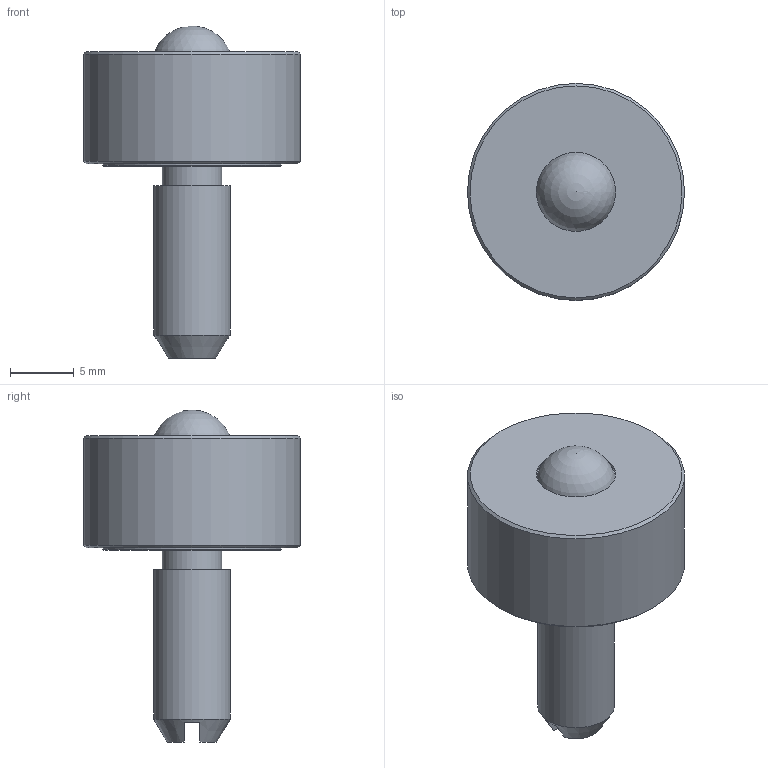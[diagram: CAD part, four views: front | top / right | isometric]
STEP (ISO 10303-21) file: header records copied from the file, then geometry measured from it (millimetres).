
FILE_DESCRIPTION(/* description */ (''),/* implementation_level */ '2;1');
FILE_NAME(/* name */ 'Z:\34-Tei\web 3Dデータ\IS-N型\IS-06N.stp',/* time_stamp */ '2015-01-06T15:30:46+09:00',/* author */ ('yamaki'),/* organization */ (''),/* preprocessor_version */ 'ST-DEVELOPER v15.6',/* originating_system */ 'Autodesk Inventor 2015',/* authorisation */ '');
FILE_SCHEMA (('AUTOMOTIVE_DESIGN { 1 0 10303 214 3 1 1 }'));
Length unit declared in the file: millimetre
Products named in the file (1): 0306AA
Bounding box: 17 x 17 x 26 mm (x, y, z)
Volume: 2438.5 mm3; surface area: 1255.4 mm2
Topology: 1 solids, 1 shells, 22 faces, 43 edges, 27 vertices
Faces by surface type: plane 10, cone 6, cylinder 5, sphere 1
Full cylindrical faces by diameter (mm): 4.65 x1, 6 x1, 6.2 x1, 14 x1, 17 x1
Entity records: 529 total; most frequent: DIRECTION 90, CARTESIAN_POINT 83, ORIENTED_EDGE 56, AXIS2_PLACEMENT_3D 43, EDGE_LOOP 38, EDGE_CURVE 28, VERTEX_POINT 24, STYLED_ITEM 23
